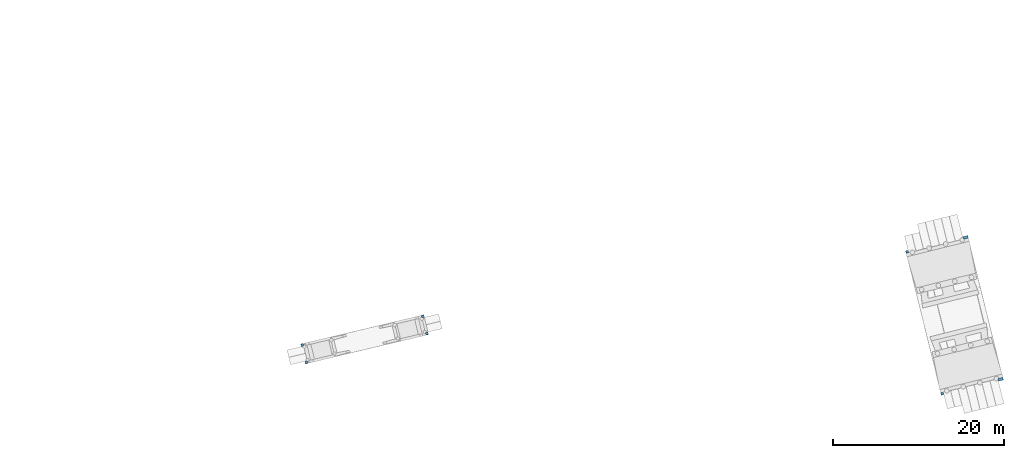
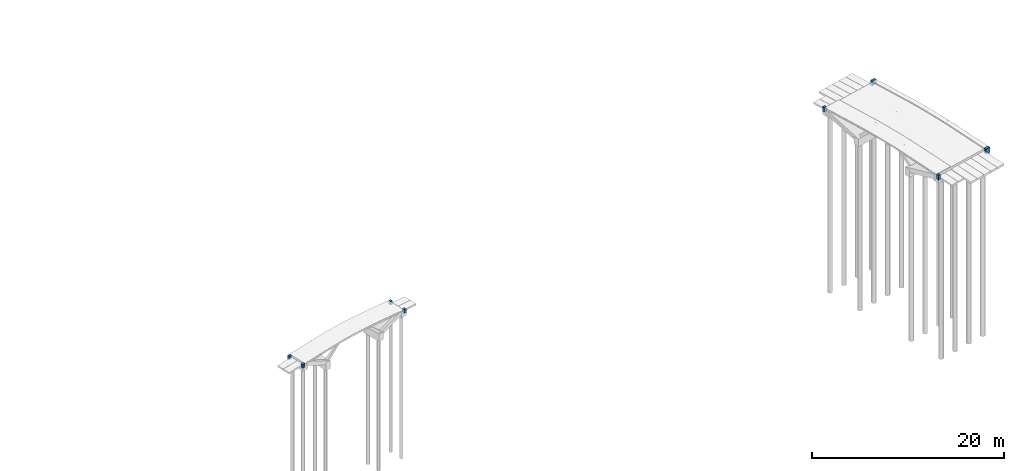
# One storey, part 9 of 15: 8 slabs.
"""IFC2X3 building model written with IfcOpenShell, lengths in millimetres."""

import ifcopenshell
import ifcopenshell.guid

model = None  # the IFC model being written
_history = None  # IfcOwnerHistory: only IFC2X3 demands one
_inside = {}  # id of a spatial element -> (the spatial element, [elements in it])
_under = {}  # id of a project, library or spatial element -> (it, [spatial elements below it])
_declared = {}  # id of a project -> (the project, [libraries it declares])
_typed = {}  # id of a type object -> (the type object, [elements of that type])
_made_of = {}  # id of a material, layer set ... -> (it, [elements and type objects made of it])


def new_model(schema):
    """Start an empty IFC model of exactly this schema.

    Asked for "IFC4X3", IfcOpenShell would pick the latest addendum, in which some entities
    have other attributes; the version numbers below select the first issue.
    IFC2X3 requires an IfcOwnerHistory on every rooted entity: one is made here for all.
    """
    global model, _history
    if schema == "IFC4X3":
        model = ifcopenshell.file(schema_version=(4, 3, 0, 0))
    else:
        model = ifcopenshell.file(schema=schema)
    _inside.clear()
    _under.clear()
    _declared.clear()
    _typed.clear()
    _made_of.clear()
    _history = None
    if model.schema == "IFC2X3":
        org = make("IfcOrganization", Name="unknown")
        user = make(
            "IfcPersonAndOrganization",
            ThePerson=make("IfcPerson", FamilyName="unknown"),
            TheOrganization=org,
        )
        app = make(
            "IfcApplication",
            ApplicationDeveloper=org,
            Version="unknown",
            ApplicationFullName="unknown",
            ApplicationIdentifier="unknown",
        )
        _history = make(
            "IfcOwnerHistory",
            OwningUser=user,
            OwningApplication=app,
            ChangeAction="ADDED",
            CreationDate=0,
        )
    return model


def make(cls, **values):
    """One entity of the class cls with the attributes given. An attribute that is None is left unset."""
    return model.create_entity(
        cls, **{name: value for name, value in values.items() if value is not None}
    )


def entity(cls, *values):
    """Any entity or typed value of the class cls, its attributes in the order of the schema. None: left unset."""
    e = model.create_entity(cls)
    for i, value in enumerate(values):
        if value is not None:
            e[i] = value
    return e


def rooted(cls, **values):
    """An entity with a GlobalId (a new one), such as an element, a storey or a relation."""
    return make(cls, GlobalId=ifcopenshell.guid.new(), OwnerHistory=_history, **values)


def si_unit(unit_type, name, prefix=None):
    """IfcSIUnit, for example si_unit("LENGTHUNIT", "METRE", prefix="MILLI")."""
    return make("IfcSIUnit", UnitType=unit_type, Prefix=prefix, Name=name)


def converted_unit(unit_type, name, factor, base, dimensions=None, offset=None):
    """IfcConversionBasedUnit, such as the inch: factor (a typed value) times the base unit."""
    return make(
        "IfcConversionBasedUnit"
        if offset is None
        else "IfcConversionBasedUnitWithOffset",
        ConversionOffset=offset,
        Dimensions=None
        if dimensions is None
        else entity("IfcDimensionalExponents", *dimensions),
        UnitType=unit_type,
        Name=name,
        ConversionFactor=make(
            "IfcMeasureWithUnit", ValueComponent=factor, UnitComponent=base
        ),
    )


def derived_unit(unit_type, elements):
    """IfcDerivedUnit: a product of units, each with its exponent."""
    return make(
        "IfcDerivedUnit",
        Elements=[
            make("IfcDerivedUnitElement", Unit=unit, Exponent=power)
            for unit, power in elements
        ],
        UnitType=unit_type,
    )


def assignment(units):
    """IfcUnitAssignment: the units of a project."""
    return None if units is None else make("IfcUnitAssignment", Units=units)


def point(xyz):
    """IfcCartesianPoint."""
    return None if xyz is None else make("IfcCartesianPoint", Coordinates=xyz)


def direction(xyz):
    """IfcDirection."""
    return None if xyz is None else make("IfcDirection", DirectionRatios=xyz)


def frame(location, z_axis=None, x_axis=None):
    """IfcAxis2Placement3D, a coordinate frame: its origin and axes. An axis left out is left unset."""
    return make(
        "IfcAxis2Placement3D",
        Location=point(location),
        Axis=direction(z_axis),
        RefDirection=direction(x_axis),
    )


def origin():
    """The frame at (0, 0, 0) with its axes left unset."""
    return frame((0.0, 0.0, 0.0))


def place(relative_to, where):
    """IfcLocalPlacement: puts the frame where relative to a parent placement (None: the world)."""
    return make(
        "IfcLocalPlacement", PlacementRelTo=relative_to, RelativePlacement=where
    )


def context(
    kind, dimensions, precision=None, world=None, true_north=None, identifier=None
):
    """IfcGeometricRepresentationContext, for example the 3D "Model" context."""
    return make(
        "IfcGeometricRepresentationContext",
        ContextIdentifier=identifier,
        ContextType=kind,
        CoordinateSpaceDimension=dimensions,
        Precision=precision,
        WorldCoordinateSystem=world,
        TrueNorth=true_north,
    )


def subcontext(parent, identifier, kind, view, scale=None):
    """IfcGeometricRepresentationSubContext, for example "Body" below "Model"."""
    return make(
        "IfcGeometricRepresentationSubContext",
        ContextIdentifier=identifier,
        ContextType=kind,
        ParentContext=parent,
        TargetScale=scale,
        TargetView=view,
    )


def project(units=None, contexts=None):
    """IfcProject with its units and contexts."""
    return rooted(
        "IfcProject",
        Name="project",
        RepresentationContexts=contexts,
        UnitsInContext=assignment(units),
    )


def spatial(cls, under=None, at=None, **own):
    """A site, building, storey or space (cls), placed at a placement, below another one or the project."""
    s = rooted(cls, ObjectPlacement=at, **own)
    if under is not None:
        _under.setdefault(under.id(), (under, []))[1].append(s)
    return s


def faces_of(points, faces, orient=None, outer=None):
    """IfcFace entities. A face is a list of loops; a loop is a list of indices into points, from 0.

    orient and outer hold one flag for each loop. By default every Orientation is true, the
    first loop of a face is its IfcFaceOuterBound and the others are IfcFaceBound.
    """
    made = []
    for i, loops in enumerate(faces):
        bounds = []
        for j, loop in enumerate(loops):
            is_outer = j == 0 if outer is None else outer[i][j]
            bounds.append(
                make(
                    "IfcFaceOuterBound" if is_outer else "IfcFaceBound",
                    Bound=make("IfcPolyLoop", Polygon=[points[k] for k in loop]),
                    Orientation=True if orient is None else orient[i][j],
                )
            )
        made.append(make("IfcFace", Bounds=bounds))
    return made


def faceted_brep(points, faces, orient=None, outer=None, voids=None):
    """IfcFacetedBrep: a solid bounded by flat faces; with voids (closed shells), ...WithVoids."""
    shared = [point(p) for p in points]
    hull = make("IfcClosedShell", CfsFaces=faces_of(shared, faces, orient, outer))
    if voids is None:
        return make("IfcFacetedBrep", Outer=hull)
    return make(
        "IfcFacetedBrepWithVoids",
        Outer=hull,
        Voids=[
            make(cls, CfsFaces=faces_of(shared, fs, o, b)) for cls, fs, o, b in voids
        ],
    )


def shape(context_of_items, identifier, shape_type, items):
    """IfcShapeRepresentation: the items that make up one representation, for example the "Body"."""
    return make(
        "IfcShapeRepresentation",
        ContextOfItems=context_of_items,
        RepresentationIdentifier=identifier,
        RepresentationType=shape_type,
        Items=items,
    )


def material(Name=None, Category=None):
    """IfcMaterial."""
    return make("IfcMaterial", Name=Name, Category=Category)


def made_of(thing, what):
    """Note that an element or type object is made of a material, layer set ...; save() writes the relation."""
    if what is not None:
        _made_of.setdefault(what.id(), (what, []))[1].append(thing)
    return thing


def type_object(cls, material=None, **own):
    """A type object (cls), such as IfcWallType, which elements share."""
    return made_of(rooted(cls, **own), material)


def element(
    cls,
    number,
    at=None,
    inside=None,
    cuts=None,
    type_object=None,
    material=None,
    context=None,
    identifier="Body",
    shape_type=None,
    held_by="IfcProductDefinitionShape",
    body=None,
    shapes=None,
    **own,
):
    """One element of the class cls, such as IfcWall. Its Tag is "e" and its number.

    at: its placement. inside: the storey or other place that contains it. cuts: it is an
    opening in that element (IfcRelVoidsElement). A single representation is given by context,
    identifier, shape_type and body (its items); several are given by shapes. held_by: the class
    of the entity that holds the representations. save() writes the other relations.
    """
    e = rooted(cls, Tag="e%d" % number, ObjectPlacement=at, **own)
    if body is not None:
        shapes = [shape(context, identifier, shape_type, body)]
    if shapes is not None:
        e.Representation = make(held_by, Representations=shapes)
    if inside is not None:
        _inside.setdefault(inside.id(), (inside, []))[1].append(e)
    if cuts is not None:
        rooted(
            "IfcRelVoidsElement", RelatingBuildingElement=cuts, RelatedOpeningElement=e
        )
    if type_object is not None:
        _typed.setdefault(type_object.id(), (type_object, []))[1].append(e)
    return made_of(e, material)


def aggregate(whole, parts):
    """IfcRelAggregates: a whole, such as a stair, and the parts it consists of."""
    return rooted("IfcRelAggregates", RelatingObject=whole, RelatedObjects=parts)


def save(model, path):
    """Write the relations noted so far, then the file.

    IfcRelAggregates (storeys below a building ...), IfcRelContainedInSpatialStructure (elements
    in a storey), IfcRelDefinesByType, IfcRelAssociatesMaterial and IfcRelDeclares: one each for
    every whole, place, type object, material and project.
    """
    for whole, parts in _under.values():
        aggregate(whole, parts)
    for where, things in _inside.values():
        rooted(
            "IfcRelContainedInSpatialStructure",
            RelatedElements=things,
            RelatingStructure=where,
        )
    for kind, things in _typed.values():
        rooted("IfcRelDefinesByType", RelatedObjects=things, RelatingType=kind)
    for what, things in _made_of.values():
        rooted("IfcRelAssociatesMaterial", RelatedObjects=things, RelatingMaterial=what)
    for by, libraries in _declared.values():
        rooted("IfcRelDeclares", RelatingContext=by, RelatedDefinitions=libraries)
    model.write(path)


model = new_model("IFC2X3")

# Units and contexts
model_context = context("Model", 3, precision=0.01, world=origin(), true_north=direction((6.12303176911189e-17, 1.0)))
body_context = subcontext(model_context, "Body", "Model", "MODEL_VIEW")
ifc_project = project(units=[si_unit("LENGTHUNIT", "METRE", prefix="MILLI"), si_unit("AREAUNIT", "SQUARE_METRE"), si_unit("VOLUMEUNIT", "CUBIC_METRE"), converted_unit("PLANEANGLEUNIT", "DEGREE", entity("IfcRatioMeasure", 0.0174532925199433), si_unit("PLANEANGLEUNIT", "RADIAN"), dimensions=[0, 0, 0, 0, 0, 0, 0]), si_unit("MASSUNIT", "GRAM", prefix="KILO"), derived_unit("MASSDENSITYUNIT", [(si_unit("MASSUNIT", "GRAM", prefix="KILO"), 1), (si_unit("LENGTHUNIT", "METRE"), -3)]), si_unit("TIMEUNIT", "SECOND"), si_unit("FREQUENCYUNIT", "HERTZ"), si_unit("THERMODYNAMICTEMPERATUREUNIT", "DEGREE_CELSIUS"), derived_unit("THERMALTRANSMITTANCEUNIT", [(si_unit("MASSUNIT", "GRAM", prefix="KILO"), 1), (si_unit("THERMODYNAMICTEMPERATUREUNIT", "KELVIN"), -1), (si_unit("TIMEUNIT", "SECOND"), -3)]), derived_unit("VOLUMETRICFLOWRATEUNIT", [(si_unit("LENGTHUNIT", "METRE"), 3), (si_unit("TIMEUNIT", "SECOND"), -1)]), si_unit("ELECTRICCURRENTUNIT", "AMPERE"), si_unit("ELECTRICVOLTAGEUNIT", "VOLT"), si_unit("POWERUNIT", "WATT"), si_unit("FORCEUNIT", "NEWTON", prefix="KILO"), si_unit("ILLUMINANCEUNIT", "LUX"), si_unit("LUMINOUSFLUXUNIT", "LUMEN"), si_unit("LUMINOUSINTENSITYUNIT", "CANDELA"), derived_unit("USERDEFINED", [(si_unit("MASSUNIT", "GRAM", prefix="KILO"), -1), (si_unit("LENGTHUNIT", "METRE"), -2), (si_unit("TIMEUNIT", "SECOND"), 3), (si_unit("LUMINOUSFLUXUNIT", "LUMEN"), 1)]), derived_unit("LINEARVELOCITYUNIT", [(si_unit("LENGTHUNIT", "METRE"), 1), (si_unit("TIMEUNIT", "SECOND"), -1)]), si_unit("PRESSUREUNIT", "PASCAL"), derived_unit("USERDEFINED", [(si_unit("LENGTHUNIT", "METRE"), -2), (si_unit("MASSUNIT", "GRAM", prefix="KILO"), 1), (si_unit("TIMEUNIT", "SECOND"), -2)])], contexts=[model_context])

# Site, building, storey
site_placement = place(None, origin())
site = spatial("IfcSite", under=ifc_project, at=site_placement, Name="Bruggen Achterburggracht Machinesloot", CompositionType="ELEMENT")
building_placement = place(site_placement, origin())
building = spatial("IfcBuilding", under=site, at=building_placement, Name="Bruggen Achterburggracht Machinesloot", CompositionType="ELEMENT")
storey_placement = place(building_placement, origin())
storey = spatial("IfcBuildingStorey", under=building, at=storey_placement, Name="00 begane grond", CompositionType="ELEMENT", Elevation=2.70716782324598e-13)

# Slabs
ifc_material = material(Name="00_PBT_MAT_beton t.p.g.")
slab_type_1 = type_object("IfcSlabType", Name="Structural Foundations 1", PredefinedType="FLOOR", material=ifc_material)
slab_1_placement = place(storey_placement, frame((-22650.3591033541, -43271.4627876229, -499.999514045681)))
element("IfcSlab", 1, at=slab_1_placement, inside=storey, type_object=slab_type_1, Name="Structural Foundations 1:Structural Foundations 1", ObjectType="Structural Foundations 1:Structural Foundations 1", PredefinedType="FLOOR", context=body_context, shape_type="Brep", body=[
    faceted_brep([(147.525730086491, 326.567811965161, 44.9995140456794), (1.59527223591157, 291.857764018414, 44.9995140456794), (1.59527223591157, 291.857764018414, 455.511423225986), (293.453036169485, 361.277110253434, 434.533379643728), (293.453036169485, 361.277110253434, 0.0), (362.872382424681, 69.4193462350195, 474.631055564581), (71.0146184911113, 0.0, 495.609099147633), (71.0146184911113, 0.0, 44.9995140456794), (216.94507634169, 34.7100479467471, 44.9995140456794), (362.872382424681, 69.4193462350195, 0.0), (10.8511850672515, 252.943395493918, 495.609099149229), (9.04204405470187, 260.549515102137, 491.834803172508), (7.2329030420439, 268.15563471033, 488.060507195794), (5.42376202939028, 275.761754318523, 484.286211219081), (3.61462101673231, 283.367873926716, 480.511915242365), (2.60494662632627, 287.612818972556, 468.011669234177), (294.324272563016, 357.614196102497, 442.370785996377), (295.195508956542, 353.951281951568, 450.208192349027), (296.066745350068, 350.288367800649, 458.045598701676), (296.937981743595, 346.625453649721, 465.88300505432), (299.823465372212, 334.494097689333, 470.257030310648), (302.708949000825, 322.362741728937, 474.631055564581)], [[[0, 1, 2, 3, 4]], [[5, 6, 7, 8, 9]], [[7, 6, 10, 11, 12, 13, 14, 15, 2, 1]], [[8, 7, 1, 0]], [[9, 8, 0, 4]], [[5, 9, 4, 3, 16, 17, 18, 19, 20, 21]], [[6, 5, 21, 10]], [[16, 3, 2]], [[14, 19, 18, 17]], [[19, 12, 20]], [[21, 20, 11]], [[11, 10, 21]], [[2, 15, 16]], [[13, 12, 19, 14]], [[14, 17, 15]], [[15, 17, 16]], [[20, 12, 11]]]),
])
slab_type_2 = type_object("IfcSlabType", Name="Structural Foundations 1", PredefinedType="FLOOR", material=ifc_material)
slab_2_placement = place(storey_placement, frame((-36756.8028428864, -46626.7936248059, -500.0)))
element("IfcSlab", 2, at=slab_2_placement, inside=storey, type_object=slab_type_2, Name="Structural Foundations 3:Structural Foundations 1", ObjectType="Structural Foundations 3:Structural Foundations 1", PredefinedType="FLOOR", context=body_context, shape_type="Brep", body=[
    faceted_brep([(1.5952722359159, 291.857763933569, 0.0), (1.5952722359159, 291.857763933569, 434.533865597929), (293.453036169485, 361.277110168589, 455.511909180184), (293.453036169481, 361.277110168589, 45.0), (147.524154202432, 326.567437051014, 45.0), (362.8723824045, 69.4193462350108, 45.0), (362.872382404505, 69.4193462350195, 495.609585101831), (71.0146184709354, 0.0, 474.631541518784), (71.014618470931, 0.0, 0.0), (216.943500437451, 34.7096731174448, 45.0), (294.324272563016, 357.614196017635, 463.349315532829), (295.195508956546, 353.951281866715, 471.186721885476), (296.066745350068, 350.288367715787, 479.024128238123), (296.937981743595, 346.625453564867, 486.861534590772), (299.823465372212, 334.49409760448, 491.235559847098), (302.70894900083, 322.362741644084, 495.60958510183), (10.8511850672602, 252.943395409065, 474.631541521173), (9.04204405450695, 260.54951501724, 470.857245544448), (7.23290304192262, 268.15563462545, 467.082949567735), (5.42376202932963, 275.761754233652, 463.308653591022), (3.61462101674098, 283.367873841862, 459.534357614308), (2.60494662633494, 287.612818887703, 447.034111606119)], [[[0, 1, 2, 3, 4]], [[5, 6, 7, 8, 9]], [[6, 5, 3, 2, 10, 11, 12, 13, 14, 15]], [[5, 9, 4, 3]], [[9, 8, 0, 4]], [[8, 7, 16, 17, 18, 19, 20, 21, 1, 0]], [[7, 6, 15, 16]], [[12, 11, 20]], [[19, 18, 13]], [[21, 20, 11]], [[14, 17, 15]], [[1, 10, 2]], [[21, 10, 1]], [[14, 13, 18]], [[19, 12, 20]], [[11, 10, 21]], [[19, 13, 12]], [[16, 15, 17]], [[14, 18, 17]]]),
])
slab_type_3 = type_object("IfcSlabType", Name="Structural Foundations 1", PredefinedType="FLOOR", material=ifc_material)
slab_3_placement = place(storey_placement, frame((-36269.2721470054, -48671.3932445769, -500.0)))
element("IfcSlab", 3, at=slab_3_placement, inside=storey, type_object=slab_type_3, Name="Structural Foundations 4:Structural Foundations 1", ObjectType="Structural Foundations 4:Structural Foundations 1", PredefinedType="FLOOR", context=body_context, shape_type="Brep", body=[
    faceted_brep([(215.348228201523, 36.304945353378, 45.0), (361.277110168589, 71.0146184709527, 45.0), (361.277110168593, 71.0146184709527, 455.51190917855), (69.4193462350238, 1.59527223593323, 434.533865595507), (69.4193462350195, 1.59527223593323, 0.0), (0.0, 293.453036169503, 474.631541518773), (291.857763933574, 362.872382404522, 495.609585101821), (291.857763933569, 362.872382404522, 45.0), (145.928881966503, 328.162709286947, 45.0), (0.0, 293.453036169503, 0.0), (352.021197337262, 109.928986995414, 495.6095851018), (353.830338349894, 102.322867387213, 491.835289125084), (355.639479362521, 94.7167477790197, 488.060993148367), (357.448620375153, 87.1106281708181, 484.28669717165), (359.257761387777, 79.5045085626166, 480.512401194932), (360.267435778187, 75.259563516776, 468.012155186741), (68.5481098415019, 5.25818638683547, 442.371271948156), (67.6768734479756, 8.92110053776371, 450.208678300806), (66.8056370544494, 12.5840146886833, 458.046084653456), (65.9344006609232, 16.2469288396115, 465.883491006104), (63.04891703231, 28.3782847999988, 470.257516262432), (60.1634334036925, 40.5096407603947, 474.631541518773)], [[[0, 1, 2, 3, 4]], [[5, 6, 7, 8, 9]], [[2, 1, 7, 6, 10, 11, 12, 13, 14, 15]], [[8, 7, 1, 0]], [[9, 8, 0, 4]], [[5, 9, 4, 3, 16, 17, 18, 19, 20, 21]], [[6, 5, 21, 10]], [[12, 11, 20]], [[15, 16, 2]], [[13, 12, 19, 14]], [[11, 10, 21]], [[16, 15, 17]], [[20, 11, 21]], [[15, 14, 17]], [[16, 3, 2]], [[20, 19, 12]], [[18, 17, 14, 19]]]),
])
slab_type_4 = type_object("IfcSlabType", Name="Structural Foundations 1", PredefinedType="FLOOR", material=ifc_material)
slab_4_placement = place(storey_placement, frame((-22162.7828799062, -45316.0563199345, -500.006802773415)))
element("IfcSlab", 4, at=slab_4_placement, inside=storey, type_object=slab_type_4, Name="Structural Foundations 2:Structural Foundations 1", ObjectType="Structural Foundations 2:Structural Foundations 1", PredefinedType="FLOOR", context=body_context, shape_type="Brep", body=[
    faceted_brep([(361.281914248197, 71.0209219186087, 0.0), (361.281914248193, 71.0209219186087, 434.540668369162), (69.4256496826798, 1.59527223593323, 455.518711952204), (69.4256496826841, 1.59527223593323, 45.0068027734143), (215.331721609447, 36.3028494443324, 45.0068027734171), (0.0, 293.45153680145, 45.0068027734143), (0.0, 293.45153680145, 495.616387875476), (291.856264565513, 362.877186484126, 474.638344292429), (291.856264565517, 362.877186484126, 0.0), (145.906071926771, 328.15911400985, 45.0068027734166), (60.1688963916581, 40.5094408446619, 495.616387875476), (68.5543341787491, 5.25816756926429, 463.356118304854), (67.6830186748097, 8.92106290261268, 471.193524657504), (66.8117031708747, 12.5839582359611, 479.030931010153), (65.9403876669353, 16.2468535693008, 486.868337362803), (63.0546420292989, 28.378147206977, 491.242362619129), (352.025160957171, 109.935090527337, 474.638344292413), (353.834466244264, 102.329009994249, 470.864048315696), (355.643771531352, 94.7229294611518, 467.089752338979), (357.453076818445, 87.1168489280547, 463.315456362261), (359.262382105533, 79.5107683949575, 459.541160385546), (360.272148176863, 75.2658451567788, 447.040914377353)], [[[0, 1, 2, 3, 4]], [[5, 6, 7, 8, 9]], [[10, 6, 5, 3, 2, 11, 12, 13, 14, 15]], [[5, 9, 4, 3]], [[9, 8, 0, 4]], [[8, 7, 16, 17, 18, 19, 20, 21, 1, 0]], [[7, 6, 10, 16]], [[17, 16, 10]], [[19, 18, 14]], [[19, 13, 20]], [[1, 21, 11]], [[11, 2, 1]], [[13, 19, 14]], [[10, 15, 17]], [[18, 15, 14]], [[15, 18, 17]], [[12, 21, 20]], [[13, 12, 20]], [[21, 12, 11]]]),
])
slab_type_5 = type_object("IfcSlabType", Name="brug 4 nokje aan funderingsbalk", PredefinedType="FLOOR", material=ifc_material)
slab_5_placement = place(storey_placement, frame((44769.3572238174, -50684.3944134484, -374.986936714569)))
element("IfcSlab", 5, at=slab_5_placement, inside=storey, type_object=slab_type_5, Name="brug 4 nokje aan funderingsbalk1:brug 4 nokje aan funderingsbalk", ObjectType="brug 4 nokje aan funderingsbalk1:brug 4 nokje aan funderingsbalk", PredefinedType="FLOOR", context=body_context, shape_type="Brep", body=[
    faceted_brep([(73.6323619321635, 1.59527223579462, 610.62668557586), (1.59527223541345, 292.817966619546, 624.774326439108), (1.59527223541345, 292.817966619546, 44.9869367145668), (37.6242730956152, 147.164349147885, 44.9869367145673), (73.6323619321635, 1.59527223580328, 0.0), (620.071752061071, 291.239045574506, 44.9869367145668), (584.042751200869, 436.892663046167, 44.9869367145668), (584.042751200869, 436.892663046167, 612.721268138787), (656.079840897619, 145.669968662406, 598.573627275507), (656.079840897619, 145.669968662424, 0.0), (21.0101185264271, 297.620439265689, 644.796553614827), (545.989735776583, 427.479837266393, 644.796553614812), (558.276372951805, 430.519070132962, 640.277065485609), (570.563010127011, 433.55830299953, 635.757577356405), (577.302880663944, 435.225483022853, 624.239422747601), (3.42274414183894, 293.270011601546, 628.68782832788), (5.2502160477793, 293.722056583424, 632.601330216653), (7.07768795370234, 294.17410156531, 636.514832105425), (8.90515985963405, 294.626146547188, 640.428333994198), (14.9576391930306, 296.123292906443, 642.612443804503), (93.0472082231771, 6.3977448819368, 630.648912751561), (89.2524237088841, 5.45906380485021, 628.764269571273), (85.4576391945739, 4.52038272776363, 626.879626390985), (81.6628546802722, 3.58170165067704, 624.994983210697), (77.8680701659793, 2.64302057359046, 623.110340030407), (75.7502160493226, 2.11914640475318, 616.868512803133), (651.055961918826, 144.427257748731, 607.159224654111), (646.828030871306, 143.381433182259, 614.384580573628), (642.600099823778, 142.335608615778, 621.609936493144), (630.313462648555, 139.296375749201, 626.129424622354), (618.026825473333, 136.257142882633, 630.648912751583)], [[[0, 1, 2, 3, 4]], [[5, 6, 7, 8, 9]], [[10, 11, 12, 13, 14, 7, 6, 2, 1, 15, 16, 17, 18, 19]], [[20, 21, 22, 23, 24, 25, 0, 4, 9, 8, 26, 27, 28, 29, 30]], [[10, 20, 30, 11]], [[3, 2, 6, 5]], [[4, 3, 5, 9]], [[30, 29, 28, 13, 12, 11]], [[27, 26, 8, 7, 14, 13, 28]], [[23, 22, 18]], [[17, 16, 24]], [[19, 18, 22]], [[25, 15, 0]], [[22, 21, 19]], [[10, 21, 20]], [[25, 24, 16]], [[17, 23, 18]], [[19, 21, 10]], [[17, 24, 23]], [[1, 0, 15]], [[25, 16, 15]]]),
])
slab_type_6 = type_object("IfcSlabType", Name="brug 4 nokje aan funderingsbalk", PredefinedType="FLOOR", material=ifc_material)
slab_6_placement = place(storey_placement, frame((38071.4437926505, -52341.1958919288, -374.986936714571)))
element("IfcSlab", 6, at=slab_6_placement, inside=storey, type_object=slab_type_6, Name="brug 4 nokje aan funderingsbalk4:brug 4 nokje aan funderingsbalk", ObjectType="brug 4 nokje aan funderingsbalk4:brug 4 nokje aan funderingsbalk", PredefinedType="FLOOR", context=body_context, shape_type="Brep", body=[
    faceted_brep([(292.817965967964, 364.855056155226, 44.9869367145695), (292.817965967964, 364.855056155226, 644.79655361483), (364.855055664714, 73.632361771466, 630.648912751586), (364.855055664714, 73.6323617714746, 0.0), (328.846966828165, 219.201438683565, 44.9869367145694), (73.6323619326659, 1.59527223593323, 0.0), (73.6323619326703, 1.59527223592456, 590.60445840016), (1.5952722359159, 292.817966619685, 604.752099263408), (1.5952722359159, 292.817966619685, 44.9869367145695), (37.6242730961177, 147.164349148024, 44.9869367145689), (5.2502160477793, 293.722056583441, 612.579103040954), (8.90515985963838, 294.626146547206, 620.4061068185), (12.5601036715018, 295.530236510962, 628.233110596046), (16.2150474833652, 296.434326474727, 636.060114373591), (28.3200061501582, 299.428619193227, 640.428333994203), (40.4249648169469, 302.422911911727, 644.79655361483), (112.462054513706, 11.2002175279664, 630.648912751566), (104.872485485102, 9.32285537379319, 626.879626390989), (97.2829164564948, 7.44549321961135, 623.110340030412), (89.6933474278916, 5.56813106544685, 619.341053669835), (82.1037783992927, 3.69076891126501, 615.57176730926), (77.8680701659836, 2.64302057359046, 603.088112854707)], [[[0, 1, 2, 3, 4]], [[5, 6, 7, 8, 9]], [[1, 0, 8, 7, 10, 11, 12, 13, 14, 15]], [[6, 5, 3, 2, 16, 17, 18, 19, 20, 21]], [[2, 1, 15, 16]], [[0, 4, 9, 8]], [[4, 3, 5, 9]], [[19, 18, 13]], [[12, 11, 20]], [[14, 13, 18]], [[21, 10, 6]], [[18, 17, 14]], [[15, 17, 16]], [[21, 20, 11]], [[12, 19, 13]], [[14, 17, 15]], [[12, 20, 19]], [[7, 6, 10]], [[21, 11, 10]]]),
])
slab_type_7 = type_object("IfcSlabType", Name="brug 4 nokje aan funderingsbalk", PredefinedType="FLOOR", material=ifc_material)
slab_7_placement = place(storey_placement, frame((33965.3374053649, -35741.5335434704, -374.986936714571)))
element("IfcSlab", 7, at=slab_7_placement, inside=storey, type_object=slab_type_7, Name="brug 4 nokje aan funderingsbalk3:brug 4 nokje aan funderingsbalk", ObjectType="brug 4 nokje aan funderingsbalk3:brug 4 nokje aan funderingsbalk", PredefinedType="FLOOR", context=body_context, shape_type="Brep", body=[
    faceted_brep([(292.817965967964, 364.855056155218, 630.648912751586), (364.855055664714, 73.6323617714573, 644.79655361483), (364.855055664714, 73.6323617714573, 44.9869367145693), (328.826054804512, 219.285979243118, 44.9869367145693), (292.817965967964, 364.855056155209, 0.0), (37.6033610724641, 147.248889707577, 44.9869367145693), (73.6323619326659, 1.5952722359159, 44.9869367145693), (73.6323619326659, 1.5952722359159, 604.752099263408), (1.5952722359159, 292.817966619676, 590.604458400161), (1.5952722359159, 292.817966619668, 0.0), (112.462054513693, 11.2002175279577, 644.796553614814), (104.872485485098, 9.32285537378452, 641.027267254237), (97.2829164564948, 7.44549321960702, 637.257980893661), (89.6933474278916, 5.56813106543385, 633.488694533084), (82.1037783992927, 3.69076891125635, 629.719408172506), (77.8680701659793, 2.64302057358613, 617.235753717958), (40.4249648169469, 302.422911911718, 630.648912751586), (5.2502160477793, 293.722056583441, 598.431462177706), (8.90515985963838, 294.626146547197, 606.258465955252), (12.5601036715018, 295.530236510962, 614.085469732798), (16.2150474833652, 296.434326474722, 621.912473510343), (28.3200061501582, 299.428619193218, 626.280693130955)], [[[0, 1, 2, 3, 4]], [[5, 6, 7, 8, 9]], [[2, 1, 10, 11, 12, 13, 14, 15, 7, 6]], [[16, 0, 4, 9, 8, 17, 18, 19, 20, 21]], [[1, 0, 16, 10]], [[3, 2, 6, 5]], [[4, 3, 5, 9]], [[11, 10, 16]], [[14, 20, 19, 18]], [[13, 12, 20, 14]], [[7, 15, 17]], [[17, 8, 7]], [[20, 12, 21]], [[16, 21, 11]], [[14, 18, 15]], [[21, 12, 11]], [[15, 18, 17]]]),
])
slab_type_8 = type_object("IfcSlabType", Name="brug 4 nokje aan funderingsbalk", PredefinedType="FLOOR", material=ifc_material)
slab_8_placement = place(storey_placement, frame((40663.5255077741, -34084.7316542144, -374.986936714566)))
element("IfcSlab", 8, at=slab_8_placement, inside=storey, type_object=slab_type_8, Name="brug 4 nokje aan funderingsbalk5:brug 4 nokje aan funderingsbalk", ObjectType="brug 4 nokje aan funderingsbalk5:brug 4 nokje aan funderingsbalk", PredefinedType="FLOOR", context=body_context, shape_type="Brep", body=[
    faceted_brep([(73.5933523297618, 1.59527223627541, 44.9869367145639), (73.5933523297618, 1.59527223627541, 624.774326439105), (1.59527223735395, 292.827613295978, 610.626685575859), (1.59527223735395, 292.82761329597, 0.0), (37.5838619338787, 147.253714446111, 44.9869367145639), (583.529554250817, 436.692648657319, 0.0), (583.529554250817, 436.692648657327, 600.914924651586), (655.527634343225, 145.460307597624, 615.062565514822), (655.527634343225, 145.460307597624, 44.9869367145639), (619.518143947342, 291.11874980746, 44.9869367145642), (93.0088417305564, 6.39514424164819, 644.796553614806), (89.2139315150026, 5.45697148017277, 642.911910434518), (85.4190212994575, 4.51879871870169, 641.02726725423), (81.6241110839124, 3.58062595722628, 639.142624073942), (77.8292008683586, 2.64245319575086, 637.257980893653), (75.7112765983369, 2.11886271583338, 631.01615366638), (648.596850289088, 143.746888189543, 625.783554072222), (641.666066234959, 142.033468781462, 636.50454262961), (629.835957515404, 139.10884470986, 640.650548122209), (618.005848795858, 136.184220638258, 644.796553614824), (21.0107616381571, 297.627485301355, 630.648912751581), (546.00776870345, 427.416561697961, 630.64891275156), (557.837877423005, 430.341185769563, 626.502907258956), (569.667986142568, 433.265809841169, 622.356901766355), (573.896290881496, 434.311125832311, 615.81628437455), (578.124595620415, 435.356441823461, 609.275666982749), (3.42280467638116, 293.27941348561, 614.54018746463), (5.25033711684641, 293.731213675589, 618.453689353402), (7.07786955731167, 294.183013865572, 622.367191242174), (8.9054019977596, 294.634814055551, 626.280693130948), (14.9580818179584, 296.131149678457, 628.464802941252)], [[[0, 1, 2, 3, 4]], [[5, 6, 7, 8, 9]], [[10, 11, 12, 13, 14, 15, 1, 0, 8, 7, 16, 17, 18, 19]], [[20, 21, 22, 23, 24, 25, 6, 5, 3, 2, 26, 27, 28, 29, 30]], [[20, 10, 19, 21]], [[0, 4, 9, 8]], [[4, 3, 5, 9]], [[19, 18, 17, 23, 22, 21]], [[16, 7, 6, 25, 24, 23, 17]], [[11, 10, 20]], [[14, 29, 28, 27]], [[13, 12, 29, 14]], [[1, 15, 26]], [[26, 2, 1]], [[29, 12, 30]], [[20, 30, 11]], [[14, 27, 15]], [[30, 12, 11]], [[15, 27, 26]]]),
])

save(model, "model.ifc")
